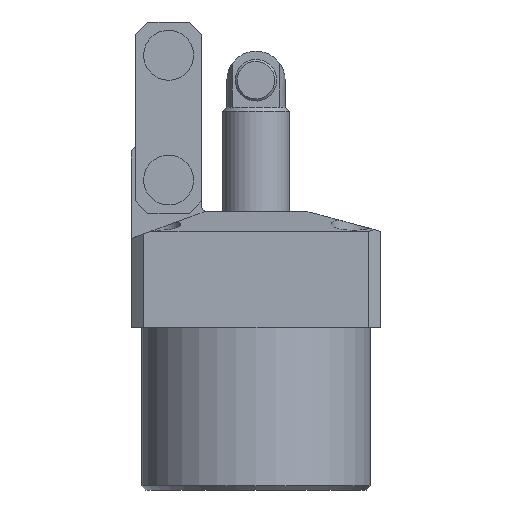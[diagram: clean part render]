
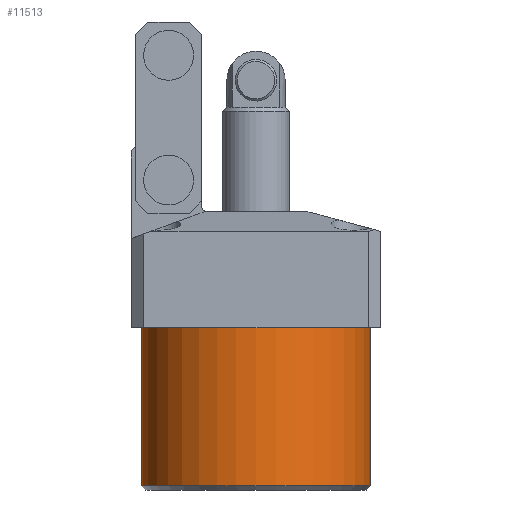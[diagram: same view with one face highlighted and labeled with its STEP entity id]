
A CAD part, front view. The second image highlights one B-rep face of the part: STEP entity #11513.
In plain terms, the highlighted cylindrical face has radius 27.5 mm (diameter 55 mm), a partial arc.
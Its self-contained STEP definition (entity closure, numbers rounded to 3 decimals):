
#84 = AXIS2_PLACEMENT_3D ( 'NONE', #492, #12308, #2186 ) ;
#492 = CARTESIAN_POINT ( 'NONE',  ( 0., 0., 0. ) ) ;
#1350 = EDGE_CURVE ( 'NONE', #11285, #2782, #6507, .T. ) ;
#1921 = CARTESIAN_POINT ( 'NONE',  ( -27.5, 0., 0. ) ) ;
#2186 = DIRECTION ( 'NONE',  ( 1., 0., 0. ) ) ;
#2495 = VECTOR ( 'NONE', #15760, 1000. ) ;
#2782 = VERTEX_POINT ( 'NONE', #1921 ) ;
#3459 = AXIS2_PLACEMENT_3D ( 'NONE', #18083, #16398, #21398 ) ;
#5856 = EDGE_CURVE ( 'NONE', #15336, #11285, #11479, .T. ) ;
#6126 = CIRCLE ( 'NONE', #12068, 27.5 ) ;
#6507 = CIRCLE ( 'NONE', #84, 27.5 ) ;
#6949 = ORIENTED_EDGE ( 'NONE', *, *, #5856, .T. ) ;
#7980 = CARTESIAN_POINT ( 'NONE',  ( 0., 0., -38. ) ) ;
#8219 = EDGE_CURVE ( 'NONE', #19210, #15336, #6126, .T. ) ;
#9691 = DIRECTION ( 'NONE',  ( -1., 0., 0. ) ) ;
#11285 = VERTEX_POINT ( 'NONE', #14161 ) ;
#11479 = LINE ( 'NONE', #17392, #2495 ) ;
#11513 = ADVANCED_FACE ( 'NONE', ( #19628 ), #19079, .T. ) ;
#11828 = CARTESIAN_POINT ( 'NONE',  ( -27.5, 0., -38. ) ) ;
#12068 = AXIS2_PLACEMENT_3D ( 'NONE', #7980, #19864, #9691 ) ;
#12265 = ORIENTED_EDGE ( 'NONE', *, *, #8219, .T. ) ;
#12308 = DIRECTION ( 'NONE',  ( 0., 0., -1. ) ) ;
#12499 = CARTESIAN_POINT ( 'NONE',  ( -27.5, 0., -39. ) ) ;
#12570 = ORIENTED_EDGE ( 'NONE', *, *, #20337, .F. ) ;
#14161 = CARTESIAN_POINT ( 'NONE',  ( 27.5, 0., 0. ) ) ;
#14350 = EDGE_LOOP ( 'NONE', ( #12570, #12265, #6949, #15136 ) ) ;
#15136 = ORIENTED_EDGE ( 'NONE', *, *, #1350, .T. ) ;
#15336 = VERTEX_POINT ( 'NONE', #21861 ) ;
#15760 = DIRECTION ( 'NONE',  ( 0., 0., 1. ) ) ;
#16398 = DIRECTION ( 'NONE',  ( 0., 0., 1. ) ) ;
#17392 = CARTESIAN_POINT ( 'NONE',  ( 27.5, 0., -39. ) ) ;
#18083 = CARTESIAN_POINT ( 'NONE',  ( 0., 0., -39. ) ) ;
#18259 = VECTOR ( 'NONE', #21138, 1000. ) ;
#18791 = LINE ( 'NONE', #12499, #18259 ) ;
#19079 = CYLINDRICAL_SURFACE ( 'NONE', #3459, 27.5 ) ;
#19210 = VERTEX_POINT ( 'NONE', #11828 ) ;
#19628 = FACE_OUTER_BOUND ( 'NONE', #14350, .T. ) ;
#19864 = DIRECTION ( 'NONE',  ( 0., 0., 1. ) ) ;
#20337 = EDGE_CURVE ( 'NONE', #19210, #2782, #18791, .T. ) ;
#21138 = DIRECTION ( 'NONE',  ( 0., 0., 1. ) ) ;
#21398 = DIRECTION ( 'NONE',  ( 1., 0., 0. ) ) ;
#21861 = CARTESIAN_POINT ( 'NONE',  ( 27.5, 0., -38. ) ) ;
